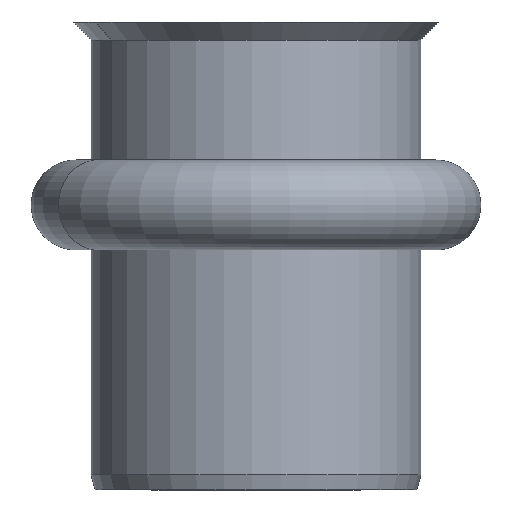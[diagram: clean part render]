
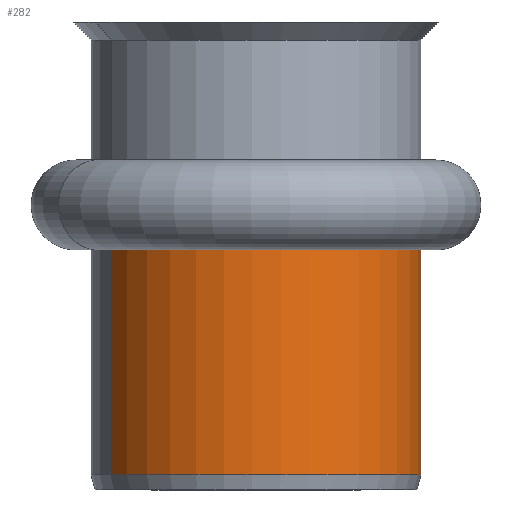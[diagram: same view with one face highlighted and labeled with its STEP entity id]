
A CAD part, left-side view. The second image highlights one B-rep face of the part: STEP entity #282.
In plain terms, the highlighted cylindrical face has radius 5.5 mm (diameter 11 mm), a partial arc.
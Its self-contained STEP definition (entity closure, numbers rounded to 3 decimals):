
#206=CARTESIAN_POINT('Vertex',(2.637,-4.827,0.5)) ;
#209=CARTESIAN_POINT('Axis2P3D Location',(0.,0.,0.5)) ;
#213=CARTESIAN_POINT('Vertex',(-2.637,4.827,0.5)) ;
#252=CARTESIAN_POINT('Axis2P3D Location',(0.,0.,7.8)) ;
#257=CARTESIAN_POINT('Line Origine',(2.637,-4.827,7.75)) ;
#261=CARTESIAN_POINT('Vertex',(2.637,-4.827,8.)) ;
#264=CARTESIAN_POINT('Axis2P3D Location',(0.,0.,8.)) ;
#268=CARTESIAN_POINT('Vertex',(-2.637,4.827,8.)) ;
#271=CARTESIAN_POINT('Line Origine',(-2.637,4.827,7.75)) ;
#210=DIRECTION('Axis2P3D Direction',(0.,0.,1.)) ;
#253=DIRECTION('Axis2P3D Direction',(0.,0.,1.)) ;
#254=DIRECTION('Axis2P3D XDirection',(-0.479,0.878,0.)) ;
#258=DIRECTION('Vector Direction',(0.,0.,1.)) ;
#265=DIRECTION('Axis2P3D Direction',(0.,0.,1.)) ;
#272=DIRECTION('Vector Direction',(0.,0.,1.)) ;
#211=AXIS2_PLACEMENT_3D('Circle Axis2P3D',#209,#210,$) ;
#255=AXIS2_PLACEMENT_3D('Cylinder Axis2P3D',#252,#253,#254) ;
#266=AXIS2_PLACEMENT_3D('Circle Axis2P3D',#264,#265,$) ;
#277=ORIENTED_EDGE('',*,*,#263,.T.) ;
#278=ORIENTED_EDGE('',*,*,#270,.F.) ;
#279=ORIENTED_EDGE('',*,*,#275,.F.) ;
#280=ORIENTED_EDGE('',*,*,#215,.T.) ;
#259=VECTOR('Line Direction',#258,1.) ;
#273=VECTOR('Line Direction',#272,1.) ;
#282=ADVANCED_FACE('PartBody',(#281),#256,.T.) ;
#212=CIRCLE('generated circle',#211,5.5) ;
#267=CIRCLE('generated circle',#266,5.5) ;
#256=CYLINDRICAL_SURFACE('generated cylinder',#255,5.5) ;
#215=EDGE_CURVE('',#214,#207,#212,.T.) ;
#263=EDGE_CURVE('',#207,#262,#260,.T.) ;
#270=EDGE_CURVE('',#269,#262,#267,.T.) ;
#275=EDGE_CURVE('',#214,#269,#274,.T.) ;
#276=EDGE_LOOP('',(#277,#278,#279,#280)) ;
#281=FACE_OUTER_BOUND('',#276,.T.) ;
#260=LINE('Line',#257,#259) ;
#274=LINE('Line',#271,#273) ;
#207=VERTEX_POINT('',#206) ;
#214=VERTEX_POINT('',#213) ;
#262=VERTEX_POINT('',#261) ;
#269=VERTEX_POINT('',#268) ;
